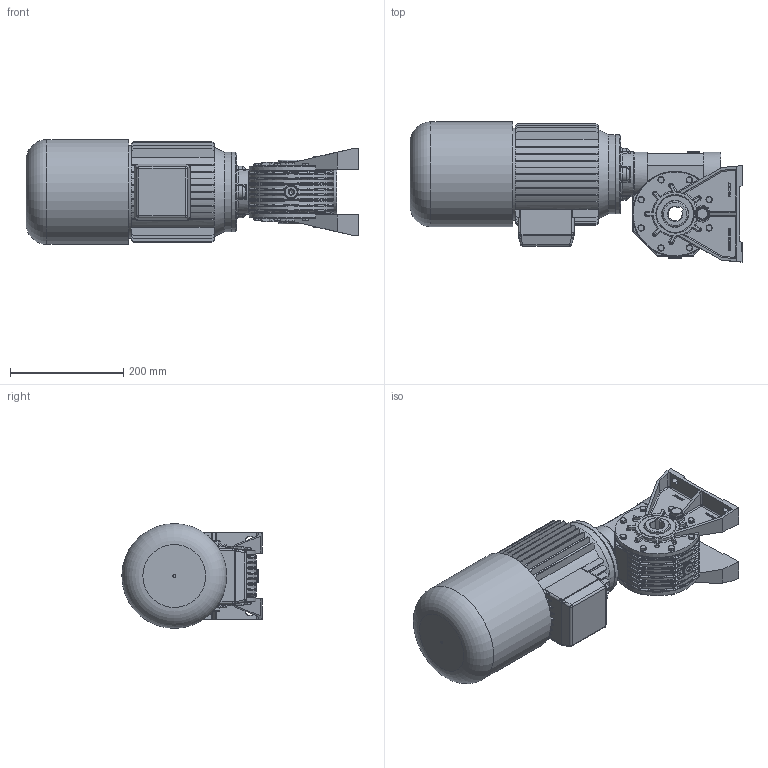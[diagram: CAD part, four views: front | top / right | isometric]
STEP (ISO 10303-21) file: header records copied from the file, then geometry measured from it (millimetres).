
FILE_DESCRIPTION((''),'2;1');
FILE_NAME('Y:\Archivi Inventor\Prog_01\GRAND_30\Figurini\MRV30 sito\90s autofrenante\MRV30_P3_90s_B14.stp','2013-02-06T11:29:54',('tech3'),(''),'Autodesk Inventor 2013','Autodesk Inventor 2013','');
FILE_SCHEMA(('AUTOMOTIVE_DESIGN { 1 0 10303 214 1 1 1 1 }'));
Length unit declared in the file: millimetre
Products named in the file (16): MRV30_90s_90L_B14; MRV30; 0103001-A2 fig; 0103008.A1 fig F=25; PARAOLIO 45x65x10; RCA_52x7; Guarnizione 3_8 GAS; Tappo 3_8 GAS_esagn_incsst; 0103010-A0 fig; 0103029; DIN EN 24017 M6 x 20; Tappo3_8 GAS; 0103028; UNI 5931 M 8 x  25; 0103006; motori B14 brake 90S
Assembly tree (41 placements, depth 3):
  MRV30_90s_90L_B14
    MRV30
      0103001-A2 fig
      0103008.A1 fig F=25
      PARAOLIO 45x65x10  x2
      RCA_52x7
      Guarnizione 3_8 GAS  x4
      Tappo 3_8 GAS_esagn_incsst  x2
      0103010-A0 fig  x2
      0103029  x2
      DIN EN 24017 M6 x 20  x16
      Tappo3_8 GAS  x2
      0103028
      UNI 5931 M 8 x  25  x4
    0103006
    motori B14 brake 90S
Bounding box: 585.9 x 247.5 x 185 mm (x, y, z)
Volume: 6922309.6 mm3; surface area: 969547.4 mm2
Topology: 41 solids, 44 shells, 2577 faces, 6305 edges, 3876 vertices
Faces by surface type: plane 1322, cylinder 607, bspline 292, cone 163, torus 161, sphere 32
Full cylindrical faces by diameter (mm): 2 x2, 4.917 x16, 5 x1, 6 x16, 6.5 x32, 6.647 x8, 8 x6, 8.5 x8, 8.88 x16, 9 x4, 11 x16, 13 x4, 13.046 x2, 14.95 x4, 16.3 x4, 16.5 x2, 22 x8, 24 x1, 25 x3, 43 x1, 45 x4, 45.76 x1, 50.881 x2, 52 x6, 55 x1, 60.5 x2, 65 x4, 75 x2, 77 x1, 78 x1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
Entity records: 57615 total; most frequent: CARTESIAN_POINT 17613, ORIENTED_EDGE 7940, DIRECTION 7938, EDGE_CURVE 3970, AXIS2_PLACEMENT_3D 2908, VERTEX_POINT 2537, VECTOR 2122, LINE 2122
